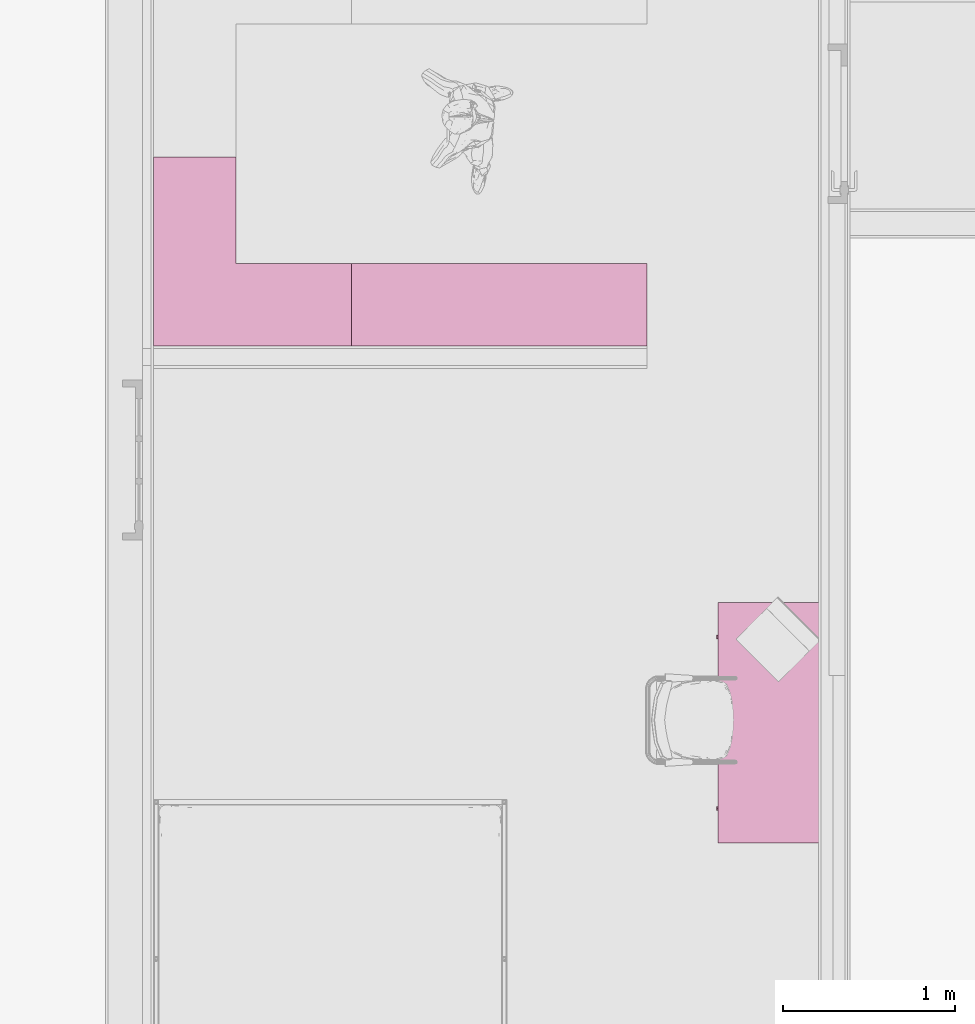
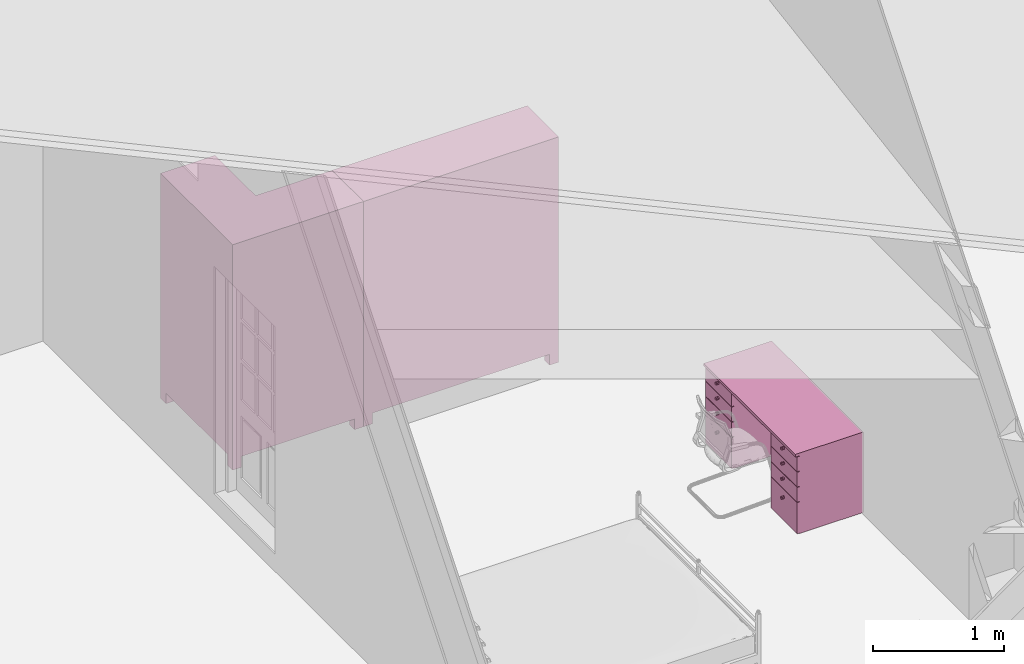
# One storey, part 21 of 24: 3 furnishings.
"""IFC2X3 building model written with IfcOpenShell, lengths in metres."""

from ifc_helpers import new_model, entity, si_unit, converted_unit, derived_unit, money_unit, direction, frame, origin_with_axes, place, context, subcontext, project, spatial, faceted_brep, type_object, element, save


model = new_model("IFC2X3")

# Units and contexts
model_context = context("Model", 3, precision=1e-05, world=origin_with_axes(), true_north=direction((0.0, 1.0)))
body_context = subcontext(model_context, "Body", "Model", "MODEL_VIEW")
ifc_project = project(units=[si_unit("LENGTHUNIT", "METRE"), si_unit("AREAUNIT", "SQUARE_METRE"), si_unit("VOLUMEUNIT", "CUBIC_METRE"), converted_unit("PLANEANGLEUNIT", "DEGREE", entity("IfcPlaneAngleMeasure", 0.0174532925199), si_unit("PLANEANGLEUNIT", "RADIAN"), dimensions=[0, 0, 0, 0, 0, 0, 0]), si_unit("SOLIDANGLEUNIT", "STERADIAN"), money_unit("CHF"), converted_unit("TIMEUNIT", "Year", entity("IfcTimeMeasure", 31556926.0), si_unit("TIMEUNIT", "SECOND"), dimensions=[0, 0, 1, 0, 0, 0, 0]), si_unit("MASSUNIT", "GRAM", prefix="KILO"), si_unit("THERMODYNAMICTEMPERATUREUNIT", "DEGREE_CELSIUS"), si_unit("LUMINOUSINTENSITYUNIT", "LUMEN"), si_unit("ENERGYUNIT", "JOULE", prefix="MEGA"), derived_unit("THERMALCONDUCTANCEUNIT", [(si_unit("POWERUNIT", "WATT"), 1), (si_unit("LENGTHUNIT", "METRE"), -1), (si_unit("THERMODYNAMICTEMPERATUREUNIT", "KELVIN"), -1)]), derived_unit("SPECIFICHEATCAPACITYUNIT", [(si_unit("ENERGYUNIT", "JOULE"), 1), (si_unit("MASSUNIT", "GRAM", prefix="KILO"), -1), (si_unit("THERMODYNAMICTEMPERATUREUNIT", "KELVIN"), -1)]), derived_unit("MASSDENSITYUNIT", [(si_unit("MASSUNIT", "GRAM", prefix="KILO"), 1), (si_unit("VOLUMEUNIT", "CUBIC_METRE"), -1)])], contexts=[model_context])

# Site, building, storey
site_placement = place(None, origin_with_axes())
site = spatial("IfcSite", under=ifc_project, at=site_placement, Name="Site", CompositionType="ELEMENT")
building_placement = place(site_placement, origin_with_axes())
building = spatial("IfcBuilding", under=site, at=building_placement, Name="Bâtiment", CompositionType="ELEMENT")
storey_placement = place(building_placement, origin_with_axes())
storey = spatial("IfcBuildingStorey", under=building, at=storey_placement, Name="Rez-de-chaussée", CompositionType="ELEMENT", Elevation=0.0)

# Furnishings
furniture_type_1 = type_object("IfcFurnitureType", Name="Bureau rectangulaire 24", AssemblyPlace="NOTDEFINED")
furnishing_1_placement = place(storey_placement, frame((27.5571417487, 10.7866617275, 0.16), z_axis=(0.0, 0.0, 1.0), x_axis=(0.0, 1.0, 0.0)))
element("IfcFurnishingElement", 1, at=furnishing_1_placement, inside=storey, type_object=furniture_type_1, Name="MOBILIER-013", ObjectType="TABLE", context=body_context, shape_type="Brep", body=[
    faceted_brep([(0.0, 0.0, 0.725), (1.4, 0.0, 0.725), (1.4, 0.0, 0.75), (0.0, 0.0, 0.75), (0.0, 0.6, 0.725), (1.4, 0.6, 0.725), (1.4, 0.6, 0.75), (0.0, 0.6, 0.75)], [[[0, 1, 2, 3]], [[0, 4, 5, 1]], [[1, 5, 6, 2]], [[3, 2, 6, 7]], [[4, 0, 3, 7]], [[5, 4, 7, 6]]]),
    faceted_brep([(1.0, 0.565, 0.0), (1.4, 0.565, 0.0), (1.4, 0.0, 0.0), (1.0, 0.0, 0.0), (1.0, 0.565, 0.725), (1.4, 0.565, 0.725), (1.4, 0.0, 0.725), (1.0, 0.0, 0.725)], [[[0, 1, 2, 3]], [[1, 0, 4, 5]], [[2, 1, 5, 6]], [[3, 2, 6, 7]], [[0, 3, 7, 4]], [[5, 4, 7, 6]]]),
    faceted_brep([(1.4, 0.585, 0.583333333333), (1.0, 0.585, 0.583333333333), (1.0, 0.585, 0.72), (1.4, 0.585, 0.72), (1.4, 0.565, 0.583333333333), (1.0, 0.565, 0.583333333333), (1.0, 0.565, 0.72), (1.4, 0.565, 0.72)], [[[0, 1, 2, 3]], [[0, 4, 5, 1]], [[1, 5, 6, 2]], [[3, 2, 6, 7]], [[4, 0, 3, 7]], [[5, 4, 7, 6]]]),
    faceted_brep([(1.19151471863, 0.585, 0.677348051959), (1.2, 0.585, 0.673833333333), (1.20848528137, 0.585, 0.677348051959), (1.212, 0.585, 0.685833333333), (1.20848528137, 0.585, 0.694318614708), (1.2, 0.585, 0.697833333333), (1.19151471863, 0.585, 0.694318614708), (1.188, 0.585, 0.685833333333), (1.19151471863, 0.61, 0.677348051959), (1.2, 0.61, 0.673833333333), (1.20848528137, 0.61, 0.677348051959), (1.212, 0.61, 0.685833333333), (1.20848528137, 0.61, 0.694318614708), (1.2, 0.61, 0.697833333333), (1.19151471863, 0.61, 0.694318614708), (1.188, 0.61, 0.685833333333)], [[[0, 1, 2, 3, 4, 5, 6, 7]], [[1, 0, 8, 9]], [[2, 1, 9, 10]], [[3, 2, 10, 11]], [[4, 3, 11, 12]], [[5, 4, 12, 13]], [[6, 5, 13, 14]], [[7, 6, 14, 15]], [[0, 7, 15, 8]], [[8, 15, 14, 13, 12, 11, 10, 9]]]),
    faceted_brep([(1.4, 0.585, 0.441666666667), (1.0, 0.585, 0.441666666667), (1.0, 0.585, 0.578333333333), (1.4, 0.585, 0.578333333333), (1.4, 0.565, 0.441666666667), (1.0, 0.565, 0.441666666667), (1.0, 0.565, 0.578333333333), (1.4, 0.565, 0.578333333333)], [[[0, 1, 2, 3]], [[0, 4, 5, 1]], [[1, 5, 6, 2]], [[3, 2, 6, 7]], [[4, 0, 3, 7]], [[5, 4, 7, 6]]]),
    faceted_brep([(1.19151471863, 0.585, 0.535681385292), (1.2, 0.585, 0.532166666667), (1.20848528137, 0.585, 0.535681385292), (1.212, 0.585, 0.544166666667), (1.20848528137, 0.585, 0.552651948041), (1.2, 0.585, 0.556166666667), (1.19151471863, 0.585, 0.552651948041), (1.188, 0.585, 0.544166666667), (1.19151471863, 0.61, 0.535681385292), (1.2, 0.61, 0.532166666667), (1.20848528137, 0.61, 0.535681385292), (1.212, 0.61, 0.544166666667), (1.20848528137, 0.61, 0.552651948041), (1.2, 0.61, 0.556166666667), (1.19151471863, 0.61, 0.552651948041), (1.188, 0.61, 0.544166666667)], [[[0, 1, 2, 3, 4, 5, 6, 7]], [[1, 0, 8, 9]], [[2, 1, 9, 10]], [[3, 2, 10, 11]], [[4, 3, 11, 12]], [[5, 4, 12, 13]], [[6, 5, 13, 14]], [[7, 6, 14, 15]], [[0, 7, 15, 8]], [[8, 15, 14, 13, 12, 11, 10, 9]]]),
    faceted_brep([(1.4, 0.585, 0.3), (1.0, 0.585, 0.3), (1.0, 0.585, 0.436666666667), (1.4, 0.585, 0.436666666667), (1.4, 0.565, 0.3), (1.0, 0.565, 0.3), (1.0, 0.565, 0.436666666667), (1.4, 0.565, 0.436666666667)], [[[0, 1, 2, 3]], [[0, 4, 5, 1]], [[1, 5, 6, 2]], [[3, 2, 6, 7]], [[4, 0, 3, 7]], [[5, 4, 7, 6]]]),
    faceted_brep([(1.19151471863, 0.585, 0.394014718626), (1.2, 0.585, 0.3905), (1.20848528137, 0.585, 0.394014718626), (1.212, 0.585, 0.4025), (1.20848528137, 0.585, 0.410985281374), (1.2, 0.585, 0.4145), (1.19151471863, 0.585, 0.410985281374), (1.188, 0.585, 0.4025), (1.19151471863, 0.61, 0.394014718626), (1.2, 0.61, 0.3905), (1.20848528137, 0.61, 0.394014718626), (1.212, 0.61, 0.4025), (1.20848528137, 0.61, 0.410985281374), (1.2, 0.61, 0.4145), (1.19151471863, 0.61, 0.410985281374), (1.188, 0.61, 0.4025)], [[[0, 1, 2, 3, 4, 5, 6, 7]], [[1, 0, 8, 9]], [[2, 1, 9, 10]], [[3, 2, 10, 11]], [[4, 3, 11, 12]], [[5, 4, 12, 13]], [[6, 5, 13, 14]], [[7, 6, 14, 15]], [[0, 7, 15, 8]], [[8, 15, 14, 13, 12, 11, 10, 9]]]),
    faceted_brep([(1.4, 0.585, 0.005), (1.0, 0.585, 0.005), (1.0, 0.585, 0.295), (1.4, 0.585, 0.295), (1.4, 0.565, 0.005), (1.0, 0.565, 0.005), (1.0, 0.565, 0.295), (1.4, 0.565, 0.295)], [[[0, 1, 2, 3]], [[0, 4, 5, 1]], [[1, 5, 6, 2]], [[3, 2, 6, 7]], [[4, 0, 3, 7]], [[5, 4, 7, 6]]]),
    faceted_brep([(1.19151471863, 0.585, 0.217764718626), (1.2, 0.585, 0.21425), (1.20848528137, 0.585, 0.217764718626), (1.212, 0.585, 0.22625), (1.20848528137, 0.585, 0.234735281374), (1.2, 0.585, 0.23825), (1.19151471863, 0.585, 0.234735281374), (1.188, 0.585, 0.22625), (1.19151471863, 0.61, 0.217764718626), (1.2, 0.61, 0.21425), (1.20848528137, 0.61, 0.217764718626), (1.212, 0.61, 0.22625), (1.20848528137, 0.61, 0.234735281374), (1.2, 0.61, 0.23825), (1.19151471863, 0.61, 0.234735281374), (1.188, 0.61, 0.22625)], [[[0, 1, 2, 3, 4, 5, 6, 7]], [[1, 0, 8, 9]], [[2, 1, 9, 10]], [[3, 2, 10, 11]], [[4, 3, 11, 12]], [[5, 4, 12, 13]], [[6, 5, 13, 14]], [[7, 6, 14, 15]], [[0, 7, 15, 8]], [[8, 15, 14, 13, 12, 11, 10, 9]]]),
    faceted_brep([(0.0, 0.565, 0.0), (0.4, 0.565, 0.0), (0.4, 0.0, 0.0), (0.0, 0.0, 0.0), (0.0, 0.565, 0.725), (0.4, 0.565, 0.725), (0.4, 0.0, 0.725), (0.0, 0.0, 0.725)], [[[0, 1, 2, 3]], [[1, 0, 4, 5]], [[2, 1, 5, 6]], [[3, 2, 6, 7]], [[0, 3, 7, 4]], [[5, 4, 7, 6]]]),
    faceted_brep([(0.4, 0.585, 0.583333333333), (0.0, 0.585, 0.583333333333), (0.0, 0.585, 0.72), (0.4, 0.585, 0.72), (0.4, 0.565, 0.583333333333), (0.0, 0.565, 0.583333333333), (0.0, 0.565, 0.72), (0.4, 0.565, 0.72)], [[[0, 1, 2, 3]], [[0, 4, 5, 1]], [[1, 5, 6, 2]], [[3, 2, 6, 7]], [[4, 0, 3, 7]], [[5, 4, 7, 6]]]),
    faceted_brep([(0.191514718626, 0.585, 0.677348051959), (0.2, 0.585, 0.673833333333), (0.208485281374, 0.585, 0.677348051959), (0.212, 0.585, 0.685833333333), (0.208485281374, 0.585, 0.694318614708), (0.2, 0.585, 0.697833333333), (0.191514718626, 0.585, 0.694318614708), (0.188, 0.585, 0.685833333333), (0.191514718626, 0.61, 0.677348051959), (0.2, 0.61, 0.673833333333), (0.208485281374, 0.61, 0.677348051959), (0.212, 0.61, 0.685833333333), (0.208485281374, 0.61, 0.694318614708), (0.2, 0.61, 0.697833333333), (0.191514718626, 0.61, 0.694318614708), (0.188, 0.61, 0.685833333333)], [[[0, 1, 2, 3, 4, 5, 6, 7]], [[1, 0, 8, 9]], [[2, 1, 9, 10]], [[3, 2, 10, 11]], [[4, 3, 11, 12]], [[5, 4, 12, 13]], [[6, 5, 13, 14]], [[7, 6, 14, 15]], [[0, 7, 15, 8]], [[8, 15, 14, 13, 12, 11, 10, 9]]]),
    faceted_brep([(0.4, 0.585, 0.441666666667), (0.0, 0.585, 0.441666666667), (0.0, 0.585, 0.578333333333), (0.4, 0.585, 0.578333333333), (0.4, 0.565, 0.441666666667), (0.0, 0.565, 0.441666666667), (0.0, 0.565, 0.578333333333), (0.4, 0.565, 0.578333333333)], [[[0, 1, 2, 3]], [[0, 4, 5, 1]], [[1, 5, 6, 2]], [[3, 2, 6, 7]], [[4, 0, 3, 7]], [[5, 4, 7, 6]]]),
    faceted_brep([(0.191514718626, 0.585, 0.535681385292), (0.2, 0.585, 0.532166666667), (0.208485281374, 0.585, 0.535681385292), (0.212, 0.585, 0.544166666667), (0.208485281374, 0.585, 0.552651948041), (0.2, 0.585, 0.556166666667), (0.191514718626, 0.585, 0.552651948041), (0.188, 0.585, 0.544166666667), (0.191514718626, 0.61, 0.535681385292), (0.2, 0.61, 0.532166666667), (0.208485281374, 0.61, 0.535681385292), (0.212, 0.61, 0.544166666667), (0.208485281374, 0.61, 0.552651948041), (0.2, 0.61, 0.556166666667), (0.191514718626, 0.61, 0.552651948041), (0.188, 0.61, 0.544166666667)], [[[0, 1, 2, 3, 4, 5, 6, 7]], [[1, 0, 8, 9]], [[2, 1, 9, 10]], [[3, 2, 10, 11]], [[4, 3, 11, 12]], [[5, 4, 12, 13]], [[6, 5, 13, 14]], [[7, 6, 14, 15]], [[0, 7, 15, 8]], [[8, 15, 14, 13, 12, 11, 10, 9]]]),
    faceted_brep([(0.4, 0.585, 0.3), (0.0, 0.585, 0.3), (0.0, 0.585, 0.436666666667), (0.4, 0.585, 0.436666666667), (0.4, 0.565, 0.3), (0.0, 0.565, 0.3), (0.0, 0.565, 0.436666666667), (0.4, 0.565, 0.436666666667)], [[[0, 1, 2, 3]], [[0, 4, 5, 1]], [[1, 5, 6, 2]], [[3, 2, 6, 7]], [[4, 0, 3, 7]], [[5, 4, 7, 6]]]),
    faceted_brep([(0.191514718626, 0.585, 0.394014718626), (0.2, 0.585, 0.3905), (0.208485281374, 0.585, 0.394014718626), (0.212, 0.585, 0.4025), (0.208485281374, 0.585, 0.410985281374), (0.2, 0.585, 0.4145), (0.191514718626, 0.585, 0.410985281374), (0.188, 0.585, 0.4025), (0.191514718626, 0.61, 0.394014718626), (0.2, 0.61, 0.3905), (0.208485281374, 0.61, 0.394014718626), (0.212, 0.61, 0.4025), (0.208485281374, 0.61, 0.410985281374), (0.2, 0.61, 0.4145), (0.191514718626, 0.61, 0.410985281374), (0.188, 0.61, 0.4025)], [[[0, 1, 2, 3, 4, 5, 6, 7]], [[1, 0, 8, 9]], [[2, 1, 9, 10]], [[3, 2, 10, 11]], [[4, 3, 11, 12]], [[5, 4, 12, 13]], [[6, 5, 13, 14]], [[7, 6, 14, 15]], [[0, 7, 15, 8]], [[8, 15, 14, 13, 12, 11, 10, 9]]]),
    faceted_brep([(0.4, 0.585, 0.005), (0.0, 0.585, 0.005), (0.0, 0.585, 0.295), (0.4, 0.585, 0.295), (0.4, 0.565, 0.005), (0.0, 0.565, 0.005), (0.0, 0.565, 0.295), (0.4, 0.565, 0.295)], [[[0, 1, 2, 3]], [[0, 4, 5, 1]], [[1, 5, 6, 2]], [[3, 2, 6, 7]], [[4, 0, 3, 7]], [[5, 4, 7, 6]]]),
    faceted_brep([(0.191514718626, 0.585, 0.217764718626), (0.2, 0.585, 0.21425), (0.208485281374, 0.585, 0.217764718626), (0.212, 0.585, 0.22625), (0.208485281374, 0.585, 0.234735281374), (0.2, 0.585, 0.23825), (0.191514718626, 0.585, 0.234735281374), (0.188, 0.585, 0.22625), (0.191514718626, 0.61, 0.217764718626), (0.2, 0.61, 0.21425), (0.208485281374, 0.61, 0.217764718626), (0.212, 0.61, 0.22625), (0.208485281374, 0.61, 0.234735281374), (0.2, 0.61, 0.23825), (0.191514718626, 0.61, 0.234735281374), (0.188, 0.61, 0.22625)], [[[0, 1, 2, 3, 4, 5, 6, 7]], [[1, 0, 8, 9]], [[2, 1, 9, 10]], [[3, 2, 10, 11]], [[4, 3, 11, 12]], [[5, 4, 12, 13]], [[6, 5, 13, 14]], [[7, 6, 14, 15]], [[0, 7, 15, 8]], [[8, 15, 14, 13, 12, 11, 10, 9]]]),
])
furniture_type_2 = type_object("IfcFurnitureType", Name="Armoire 01 24", AssemblyPlace="NOTDEFINED")
furnishing_2_placement = place(storey_placement, frame((23.6671417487, 14.7825937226, 0.16), z_axis=(0.0, 0.0, 1.0), x_axis=(-1.0, 0.0, 0.0)))
element("IfcFurnishingElement", 2, at=furnishing_2_placement, inside=storey, type_object=furniture_type_2, Name="MOBILIER-007", context=body_context, shape_type="Brep", body=[
    faceted_brep([(0.0, 0.0, 0.12), (0.0, 0.0, 2.08), (-0.48, 0.0, 2.08), (-0.48, 0.0, 0.12), (0.0, 1.10025298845, 0.12), (0.0, 1.10025298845, 2.08), (-1.15457870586, 1.10025298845, 2.08), (-1.15457870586, 0.620252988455, 2.08), (-1.13457870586, 0.620252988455, 2.08), (-1.13457870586, 1.08025298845, 2.08), (-0.02, 1.08025298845, 2.08), (-0.02, 0.02, 2.08), (-0.48, 0.02, 2.08), (-0.48, 0.02, 0.12), (-0.02, 0.02, 0.12), (-0.02, 1.08025298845, 0.12), (-1.13457870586, 1.08025298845, 0.12), (-1.13457870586, 0.620252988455, 0.12), (-1.15457870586, 0.620252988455, 0.12), (-1.15457870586, 1.10025298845, 0.12)], [[[0, 1, 2, 3]], [[4, 5, 1, 0]], [[1, 5, 6, 7, 8, 9, 10, 11, 12, 2]], [[3, 2, 12, 13]], [[0, 3, 13, 14, 15, 16, 17, 18, 19, 4]], [[19, 6, 5, 4]], [[18, 7, 6, 19]], [[17, 8, 7, 18]], [[16, 9, 8, 17]], [[15, 10, 9, 16]], [[14, 11, 10, 15]], [[13, 12, 11, 14]]]),
    faceted_brep([(-0.48, 0.620252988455, 0.1), (-0.48, 0.620252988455, 0.12), (-1.13457870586, 0.620252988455, 0.12), (-1.13457870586, 0.620252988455, 0.1), (0.0, 1.10025298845, 0.1), (0.0, 1.10025298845, 0.12), (-1.15457870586, 1.10025298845, 0.12), (-1.15457870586, 0.620252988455, 0.12), (-1.15457870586, 0.620252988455, 0.1), (-1.15457870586, 1.10025298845, 0.1)], [[[0, 1, 2, 3]], [[4, 5, 1, 0]], [[1, 5, 6, 7, 2]], [[3, 2, 7, 8]], [[0, 3, 8, 9, 4]], [[9, 6, 5, 4]], [[8, 7, 6, 9]]]),
    faceted_brep([(0.0, 0.0, 0.1), (0.0, 0.0, 0.12), (-0.48, 0.0, 0.12), (-0.48, 0.0, 0.1), (0.0, 1.10025298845, 0.1), (0.0, 1.10025298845, 0.12), (-0.48, 0.620252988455, 0.12), (-0.48, 0.02, 0.12), (-0.48, 0.02, 0.1), (-0.48, 0.620252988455, 0.1)], [[[0, 1, 2, 3]], [[4, 5, 1, 0]], [[1, 5, 6, 7, 2]], [[3, 2, 7, 8]], [[0, 3, 8, 9, 4]], [[9, 6, 5, 4]], [[8, 7, 6, 9]]]),
    faceted_brep([(-0.48, 0.620252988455, 2.08), (-0.48, 0.620252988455, 2.1), (-1.13457870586, 0.620252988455, 2.1), (-1.13457870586, 0.620252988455, 2.08), (0.0, 1.10025298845, 2.08), (0.0, 1.10025298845, 2.1), (-1.15457870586, 1.10025298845, 2.1), (-1.15457870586, 0.620252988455, 2.1), (-1.15457870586, 0.620252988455, 2.08), (-1.15457870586, 1.10025298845, 2.08)], [[[0, 1, 2, 3]], [[4, 5, 1, 0]], [[1, 5, 6, 7, 2]], [[3, 2, 7, 8]], [[0, 3, 8, 9, 4]], [[9, 6, 5, 4]], [[8, 7, 6, 9]]]),
    faceted_brep([(0.0, 0.0, 2.08), (0.0, 0.0, 2.1), (-0.48, 0.0, 2.1), (-0.48, 0.0, 2.08), (0.0, 1.10025298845, 2.08), (0.0, 1.10025298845, 2.1), (-0.48, 0.620252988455, 2.1), (-0.48, 0.02, 2.1), (-0.48, 0.02, 2.08), (-0.48, 0.620252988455, 2.08)], [[[0, 1, 2, 3]], [[4, 5, 1, 0]], [[1, 5, 6, 7, 2]], [[3, 2, 7, 8]], [[0, 3, 8, 9, 4]], [[9, 6, 5, 4]], [[8, 7, 6, 9]]]),
    faceted_brep([(-0.08, 1.02025298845, 0.0), (-0.08, 1.02025298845, 0.1), (-0.08, 1.10025298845, 0.1), (-0.08, 1.10025298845, 0.0), (0.0, 1.02025298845, 0.0), (0.0, 1.02025298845, 0.1), (0.0, 1.10025298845, 0.1), (0.0, 1.10025298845, 0.0)], [[[0, 1, 2, 3]], [[4, 5, 1, 0]], [[1, 5, 6, 2]], [[3, 2, 6, 7]], [[0, 3, 7, 4]], [[7, 6, 5, 4]]]),
    faceted_brep([(-1.15457870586, 1.02025298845, 0.0), (-1.15457870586, 1.02025298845, 0.1), (-1.15457870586, 1.10025298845, 0.1), (-1.15457870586, 1.10025298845, 0.0), (-1.07457870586, 1.02025298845, 0.0), (-1.07457870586, 1.02025298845, 0.1), (-1.07457870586, 1.10025298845, 0.1), (-1.07457870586, 1.10025298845, 0.0)], [[[0, 1, 2, 3]], [[4, 5, 1, 0]], [[1, 5, 6, 2]], [[3, 2, 6, 7]], [[0, 3, 7, 4]], [[7, 6, 5, 4]]]),
    faceted_brep([(-0.08, 0.0, 0.0), (-0.08, 0.0, 0.1), (-0.08, 0.08, 0.1), (-0.08, 0.08, 0.0), (0.0, 0.0, 0.0), (0.0, 0.0, 0.1), (0.0, 0.08, 0.1), (0.0, 0.08, 0.0)], [[[0, 1, 2, 3]], [[4, 5, 1, 0]], [[1, 5, 6, 2]], [[3, 2, 6, 7]], [[0, 3, 7, 4]], [[7, 6, 5, 4]]]),
    faceted_brep([(-0.48, 0.0, 0.0), (-0.48, 0.0, 0.1), (-0.48, 0.08, 0.1), (-0.48, 0.08, 0.0), (-0.4, 0.0, 0.0), (-0.4, 0.0, 0.1), (-0.4, 0.08, 0.1), (-0.4, 0.08, 0.0)], [[[0, 1, 2, 3]], [[4, 5, 1, 0]], [[1, 5, 6, 2]], [[3, 2, 6, 7]], [[0, 3, 7, 4]], [[7, 6, 5, 4]]]),
    faceted_brep([(-1.15457870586, 0.620252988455, 0.0), (-1.15457870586, 0.620252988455, 0.1), (-1.15457870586, 0.700252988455, 0.1), (-1.15457870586, 0.700252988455, 0.0), (-1.07457870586, 0.620252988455, 0.0), (-1.07457870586, 0.620252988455, 0.1), (-1.07457870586, 0.700252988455, 0.1), (-1.07457870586, 0.700252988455, 0.0)], [[[0, 1, 2, 3]], [[4, 5, 1, 0]], [[1, 5, 6, 2]], [[3, 2, 6, 7]], [[0, 3, 7, 4]], [[7, 6, 5, 4]]]),
    faceted_brep([(-0.48, 0.620252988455, 0.0), (-0.48, 0.620252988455, 0.1), (-0.48, 0.700252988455, 0.1), (-0.48, 0.700252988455, 0.0), (-0.4, 0.620252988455, 0.0), (-0.4, 0.620252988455, 0.1), (-0.4, 0.700252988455, 0.1), (-0.4, 0.700252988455, 0.0)], [[[0, 1, 2, 3]], [[4, 5, 1, 0]], [[1, 5, 6, 2]], [[3, 2, 6, 7]], [[0, 3, 7, 4]], [[7, 6, 5, 4]]]),
    faceted_brep([(-0.48, 0.620252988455, 0.476), (-0.48, 0.620252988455, 0.496), (-1.13457870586, 0.620252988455, 0.496), (-1.13457870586, 0.620252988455, 0.476), (-0.02, 1.08025298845, 0.476), (-0.02, 1.08025298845, 0.496), (-1.13457870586, 1.08025298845, 0.496), (-1.13457870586, 1.08025298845, 0.476)], [[[0, 1, 2, 3]], [[4, 5, 1, 0]], [[1, 5, 6, 2]], [[3, 2, 6, 7]], [[0, 3, 7, 4]], [[7, 6, 5, 4]]]),
    faceted_brep([(-0.02, 0.02, 0.476), (-0.02, 0.02, 0.496), (-0.48, 0.02, 0.496), (-0.48, 0.02, 0.476), (-0.02, 1.08025298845, 0.476), (-0.02, 1.08025298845, 0.496), (-0.48, 0.620252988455, 0.496), (-0.48, 0.620252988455, 0.476)], [[[0, 1, 2, 3]], [[4, 5, 1, 0]], [[1, 5, 6, 2]], [[3, 2, 6, 7]], [[0, 3, 7, 4]], [[7, 6, 5, 4]]]),
    faceted_brep([(-0.48, 0.620252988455, 0.872), (-0.48, 0.620252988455, 0.892), (-1.13457870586, 0.620252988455, 0.892), (-1.13457870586, 0.620252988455, 0.872), (-0.02, 1.08025298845, 0.872), (-0.02, 1.08025298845, 0.892), (-1.13457870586, 1.08025298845, 0.892), (-1.13457870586, 1.08025298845, 0.872)], [[[0, 1, 2, 3]], [[4, 5, 1, 0]], [[1, 5, 6, 2]], [[3, 2, 6, 7]], [[0, 3, 7, 4]], [[7, 6, 5, 4]]]),
    faceted_brep([(-0.02, 0.02, 0.872), (-0.02, 0.02, 0.892), (-0.48, 0.02, 0.892), (-0.48, 0.02, 0.872), (-0.02, 1.08025298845, 0.872), (-0.02, 1.08025298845, 0.892), (-0.48, 0.620252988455, 0.892), (-0.48, 0.620252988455, 0.872)], [[[0, 1, 2, 3]], [[4, 5, 1, 0]], [[1, 5, 6, 2]], [[3, 2, 6, 7]], [[0, 3, 7, 4]], [[7, 6, 5, 4]]]),
    faceted_brep([(-0.48, 0.620252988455, 1.268), (-0.48, 0.620252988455, 1.288), (-1.13457870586, 0.620252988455, 1.288), (-1.13457870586, 0.620252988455, 1.268), (-0.02, 1.08025298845, 1.268), (-0.02, 1.08025298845, 1.288), (-1.13457870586, 1.08025298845, 1.288), (-1.13457870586, 1.08025298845, 1.268)], [[[0, 1, 2, 3]], [[4, 5, 1, 0]], [[1, 5, 6, 2]], [[3, 2, 6, 7]], [[0, 3, 7, 4]], [[7, 6, 5, 4]]]),
    faceted_brep([(-0.02, 0.02, 1.268), (-0.02, 0.02, 1.288), (-0.48, 0.02, 1.288), (-0.48, 0.02, 1.268), (-0.02, 1.08025298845, 1.268), (-0.02, 1.08025298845, 1.288), (-0.48, 0.620252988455, 1.288), (-0.48, 0.620252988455, 1.268)], [[[0, 1, 2, 3]], [[4, 5, 1, 0]], [[1, 5, 6, 2]], [[3, 2, 6, 7]], [[0, 3, 7, 4]], [[7, 6, 5, 4]]]),
    faceted_brep([(-0.48, 0.620252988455, 1.664), (-0.48, 0.620252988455, 1.684), (-1.13457870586, 0.620252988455, 1.684), (-1.13457870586, 0.620252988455, 1.664), (-0.02, 1.08025298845, 1.664), (-0.02, 1.08025298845, 1.684), (-1.13457870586, 1.08025298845, 1.684), (-1.13457870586, 1.08025298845, 1.664)], [[[0, 1, 2, 3]], [[4, 5, 1, 0]], [[1, 5, 6, 2]], [[3, 2, 6, 7]], [[0, 3, 7, 4]], [[7, 6, 5, 4]]]),
    faceted_brep([(-0.02, 0.02, 1.664), (-0.02, 0.02, 1.684), (-0.48, 0.02, 1.684), (-0.48, 0.02, 1.664), (-0.02, 1.08025298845, 1.664), (-0.02, 1.08025298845, 1.684), (-0.48, 0.620252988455, 1.684), (-0.48, 0.620252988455, 1.664)], [[[0, 1, 2, 3]], [[4, 5, 1, 0]], [[1, 5, 6, 2]], [[3, 2, 6, 7]], [[0, 3, 7, 4]], [[7, 6, 5, 4]]]),
])
furnishing_3_placement = place(storey_placement, frame((24.8217204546, 14.1823407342, 0.16), z_axis=(0.0, 0.0, 1.0), x_axis=(-1.0, 0.0, 0.0)))
element("IfcFurnishingElement", 3, at=furnishing_3_placement, inside=storey, type_object=furniture_type_2, Name="MOBILIER-008", context=body_context, shape_type="Brep", body=[
    faceted_brep([(-0.02, 0.5, 0.12), (-0.02, 0.5, 2.08), (-0.02, 0.48, 2.08), (-0.02, 0.48, 0.12), (-1.70042129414, 0.5, 0.12), (-1.70042129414, 0.5, 2.08), (-1.70042129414, 0.48, 2.08), (-1.70042129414, 0.48, 0.12)], [[[0, 1, 2, 3]], [[4, 5, 1, 0]], [[1, 5, 6, 2]], [[3, 2, 6, 7]], [[0, 3, 7, 4]], [[7, 6, 5, 4]]]),
    faceted_brep([(-1.72042129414, 0.02, 0.1), (-1.72042129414, 0.5, 0.1), (-1.70042129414, 0.5, 0.1), (-1.70042129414, 0.02, 0.1), (-1.72042129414, 0.02, 2.1), (-1.72042129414, 0.5, 2.1), (-1.70042129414, 0.5, 2.1), (-1.70042129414, 0.02, 2.1)], [[[0, 1, 2, 3]], [[0, 4, 5, 1]], [[1, 5, 6, 2]], [[2, 6, 7, 3]], [[3, 7, 4, 0]], [[7, 6, 5, 4]]]),
    faceted_brep([(-0.02, 0.02, 0.1), (-0.02, 0.5, 0.1), (0.0, 0.5, 0.1), (0.0, 0.02, 0.1), (-0.02, 0.02, 2.1), (-0.02, 0.5, 2.1), (0.0, 0.5, 2.1), (0.0, 0.02, 2.1)], [[[0, 1, 2, 3]], [[0, 4, 5, 1]], [[1, 5, 6, 2]], [[2, 6, 7, 3]], [[3, 7, 4, 0]], [[7, 6, 5, 4]]]),
    faceted_brep([(-1.70042129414, 0.02, 0.1), (-1.70042129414, 0.5, 0.1), (-0.02, 0.5, 0.1), (-0.02, 0.02, 0.1), (-1.70042129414, 0.02, 0.12), (-1.70042129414, 0.5, 0.12), (-0.02, 0.5, 0.12), (-0.02, 0.02, 0.12)], [[[0, 1, 2, 3]], [[0, 4, 5, 1]], [[1, 5, 6, 2]], [[2, 6, 7, 3]], [[3, 7, 4, 0]], [[7, 6, 5, 4]]]),
    faceted_brep([(-1.70042129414, 0.02, 2.08), (-1.70042129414, 0.5, 2.08), (-0.02, 0.5, 2.08), (-0.02, 0.02, 2.08), (-1.70042129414, 0.02, 2.1), (-1.70042129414, 0.5, 2.1), (-0.02, 0.5, 2.1), (-0.02, 0.02, 2.1)], [[[0, 1, 2, 3]], [[0, 4, 5, 1]], [[1, 5, 6, 2]], [[2, 6, 7, 3]], [[3, 7, 4, 0]], [[7, 6, 5, 4]]]),
    faceted_brep([(-0.08, 0.42, 0.0), (-0.08, 0.42, 0.1), (-0.08, 0.5, 0.1), (-0.08, 0.5, 0.0), (0.0, 0.42, 0.0), (0.0, 0.42, 0.1), (0.0, 0.5, 0.1), (0.0, 0.5, 0.0)], [[[0, 1, 2, 3]], [[4, 5, 1, 0]], [[1, 5, 6, 2]], [[3, 2, 6, 7]], [[0, 3, 7, 4]], [[7, 6, 5, 4]]]),
    faceted_brep([(-1.72042129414, 0.42, 0.0), (-1.72042129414, 0.42, 0.1), (-1.72042129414, 0.5, 0.1), (-1.72042129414, 0.5, 0.0), (-1.64042129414, 0.42, 0.0), (-1.64042129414, 0.42, 0.1), (-1.64042129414, 0.5, 0.1), (-1.64042129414, 0.5, 0.0)], [[[0, 1, 2, 3]], [[4, 5, 1, 0]], [[1, 5, 6, 2]], [[3, 2, 6, 7]], [[0, 3, 7, 4]], [[7, 6, 5, 4]]]),
    faceted_brep([(-0.08, 0.02, 0.0), (-0.08, 0.02, 0.1), (-0.08, 0.1, 0.1), (-0.08, 0.1, 0.0), (0.0, 0.02, 0.0), (0.0, 0.02, 0.1), (0.0, 0.1, 0.1), (0.0, 0.1, 0.0)], [[[0, 1, 2, 3]], [[4, 5, 1, 0]], [[1, 5, 6, 2]], [[3, 2, 6, 7]], [[0, 3, 7, 4]], [[7, 6, 5, 4]]]),
    faceted_brep([(-1.72042129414, 0.02, 0.0), (-1.72042129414, 0.02, 0.1), (-1.72042129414, 0.1, 0.1), (-1.72042129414, 0.1, 0.0), (-1.64042129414, 0.02, 0.0), (-1.64042129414, 0.02, 0.1), (-1.64042129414, 0.1, 0.1), (-1.64042129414, 0.1, 0.0)], [[[0, 1, 2, 3]], [[4, 5, 1, 0]], [[1, 5, 6, 2]], [[3, 2, 6, 7]], [[0, 3, 7, 4]], [[7, 6, 5, 4]]]),
    faceted_brep([(-0.02, 0.48, 0.496), (-0.02, 0.48, 0.516), (-0.02, 0.02, 0.516), (-0.02, 0.02, 0.496), (-0.850210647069, 0.48, 0.496), (-0.850210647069, 0.48, 0.516), (-0.850210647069, 0.02, 0.516), (-0.850210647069, 0.02, 0.496)], [[[0, 1, 2, 3]], [[4, 5, 1, 0]], [[1, 5, 6, 2]], [[3, 2, 6, 7]], [[0, 3, 7, 4]], [[7, 6, 5, 4]]]),
    faceted_brep([(-0.02, 0.48, 0.892), (-0.02, 0.48, 0.912), (-0.02, 0.02, 0.912), (-0.02, 0.02, 0.892), (-0.850210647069, 0.48, 0.892), (-0.850210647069, 0.48, 0.912), (-0.850210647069, 0.02, 0.912), (-0.850210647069, 0.02, 0.892)], [[[0, 1, 2, 3]], [[4, 5, 1, 0]], [[1, 5, 6, 2]], [[3, 2, 6, 7]], [[0, 3, 7, 4]], [[7, 6, 5, 4]]]),
    faceted_brep([(-0.02, 0.48, 1.288), (-0.02, 0.48, 1.308), (-0.02, 0.02, 1.308), (-0.02, 0.02, 1.288), (-0.850210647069, 0.48, 1.288), (-0.850210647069, 0.48, 1.308), (-0.850210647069, 0.02, 1.308), (-0.850210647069, 0.02, 1.288)], [[[0, 1, 2, 3]], [[4, 5, 1, 0]], [[1, 5, 6, 2]], [[3, 2, 6, 7]], [[0, 3, 7, 4]], [[7, 6, 5, 4]]]),
    faceted_brep([(-0.02, 0.48, 1.684), (-0.02, 0.48, 1.704), (-0.02, 0.02, 1.704), (-0.02, 0.02, 1.684), (-0.850210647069, 0.48, 1.684), (-0.850210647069, 0.48, 1.704), (-0.850210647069, 0.02, 1.704), (-0.850210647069, 0.02, 1.684)], [[[0, 1, 2, 3]], [[4, 5, 1, 0]], [[1, 5, 6, 2]], [[3, 2, 6, 7]], [[0, 3, 7, 4]], [[7, 6, 5, 4]]]),
    faceted_brep([(-0.850210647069, 0.48, 0.12), (-0.850210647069, 0.48, 2.08), (-0.850210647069, 0.02, 2.08), (-0.850210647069, 0.02, 0.12), (-0.870210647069, 0.48, 0.12), (-0.870210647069, 0.48, 2.08), (-0.870210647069, 0.02, 2.08), (-0.870210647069, 0.02, 0.12)], [[[0, 1, 2, 3]], [[4, 5, 1, 0]], [[1, 5, 6, 2]], [[3, 2, 6, 7]], [[0, 3, 7, 4]], [[7, 6, 5, 4]]]),
    faceted_brep([(-0.870210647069, 0.245, 0.985), (-1.70042129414, 0.245, 0.985), (-1.70042129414, 0.247009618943, 0.9775), (-0.870210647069, 0.247009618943, 0.9775), (-0.870210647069, 0.245, 1.015), (-1.70042129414, 0.245, 1.015), (-1.70042129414, 0.247009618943, 1.0225), (-1.70042129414, 0.2525, 1.02799038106), (-1.70042129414, 0.26, 1.03), (-1.70042129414, 0.2675, 1.02799038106), (-1.70042129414, 0.272990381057, 1.0225), (-1.70042129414, 0.275, 1.015), (-1.70042129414, 0.275, 0.985), (-1.70042129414, 0.272990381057, 0.9775), (-1.70042129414, 0.2675, 0.972009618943), (-1.70042129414, 0.26, 0.97), (-1.70042129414, 0.2525, 0.972009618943), (-0.870210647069, 0.2525, 0.972009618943), (-0.870210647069, 0.26, 0.97), (-0.870210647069, 0.2675, 0.972009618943), (-0.870210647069, 0.272990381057, 0.9775), (-0.870210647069, 0.275, 0.985), (-0.870210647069, 0.275, 1.015), (-0.870210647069, 0.272990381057, 1.0225), (-0.870210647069, 0.2675, 1.02799038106), (-0.870210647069, 0.26, 1.03), (-0.870210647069, 0.2525, 1.02799038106), (-0.870210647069, 0.247009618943, 1.0225)], [[[0, 1, 2, 3]], [[4, 5, 1, 0]], [[1, 5, 6, 7, 8, 9, 10, 11, 12, 13, 14, 15, 16, 2]], [[3, 2, 16, 17]], [[0, 3, 17, 18, 19, 20, 21, 22, 23, 24, 25, 26, 27, 4]], [[27, 6, 5, 4]], [[26, 7, 6, 27]], [[25, 8, 7, 26]], [[24, 9, 8, 25]], [[23, 10, 9, 24]], [[22, 11, 10, 23]], [[21, 12, 11, 22]], [[20, 13, 12, 21]], [[19, 14, 13, 20]], [[18, 15, 14, 19]], [[17, 16, 15, 18]]]),
    faceted_brep([(-0.870210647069, 0.245, 1.915), (-1.70042129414, 0.245, 1.915), (-1.70042129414, 0.247009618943, 1.9075), (-0.870210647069, 0.247009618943, 1.9075), (-0.870210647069, 0.245, 1.945), (-1.70042129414, 0.245, 1.945), (-1.70042129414, 0.247009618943, 1.9525), (-1.70042129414, 0.2525, 1.95799038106), (-1.70042129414, 0.26, 1.96), (-1.70042129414, 0.2675, 1.95799038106), (-1.70042129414, 0.272990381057, 1.9525), (-1.70042129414, 0.275, 1.945), (-1.70042129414, 0.275, 1.915), (-1.70042129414, 0.272990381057, 1.9075), (-1.70042129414, 0.2675, 1.90200961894), (-1.70042129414, 0.26, 1.9), (-1.70042129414, 0.2525, 1.90200961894), (-0.870210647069, 0.2525, 1.90200961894), (-0.870210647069, 0.26, 1.9), (-0.870210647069, 0.2675, 1.90200961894), (-0.870210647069, 0.272990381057, 1.9075), (-0.870210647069, 0.275, 1.915), (-0.870210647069, 0.275, 1.945), (-0.870210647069, 0.272990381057, 1.9525), (-0.870210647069, 0.2675, 1.95799038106), (-0.870210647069, 0.26, 1.96), (-0.870210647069, 0.2525, 1.95799038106), (-0.870210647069, 0.247009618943, 1.9525)], [[[0, 1, 2, 3]], [[4, 5, 1, 0]], [[1, 5, 6, 7, 8, 9, 10, 11, 12, 13, 14, 15, 16, 2]], [[3, 2, 16, 17]], [[0, 3, 17, 18, 19, 20, 21, 22, 23, 24, 25, 26, 27, 4]], [[27, 6, 5, 4]], [[26, 7, 6, 27]], [[25, 8, 7, 26]], [[24, 9, 8, 25]], [[23, 10, 9, 24]], [[22, 11, 10, 23]], [[21, 12, 11, 22]], [[20, 13, 12, 21]], [[19, 14, 13, 20]], [[18, 15, 14, 19]], [[17, 16, 15, 18]]]),
])

save(model, "model.ifc")
